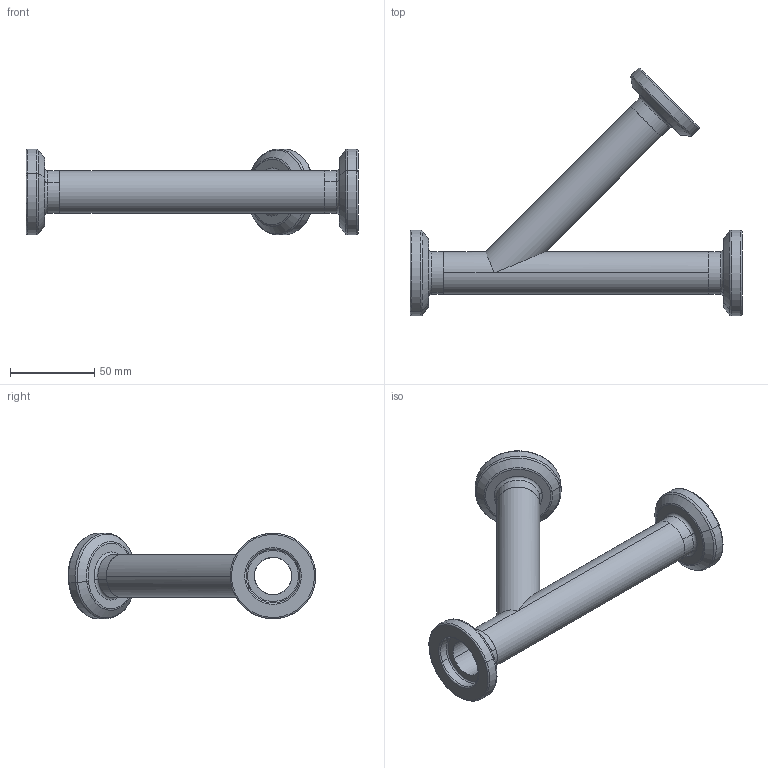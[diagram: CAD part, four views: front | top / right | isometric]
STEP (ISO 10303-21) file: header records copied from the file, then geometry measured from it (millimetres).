
FILE_DESCRIPTION (( 'STEP AP203' ), '1' );
FILE_NAME ('E28AI 1.0.STEP', '2021-10-27T14:25:05', ( '' ), ( '' ), 'SwSTEP 2.0', 'SolidWorks 2021', '' );
FILE_SCHEMA (( 'CONFIG_CONTROL_DESIGN' ));
Length unit declared in the file: inch
Products named in the file (3): E15WI1.0; E28AI 1.0; E28WA1.0
Assembly tree (4 placements, depth 2):
  E28AI 1.0
    E28WA1.0
    E15WI1.0  x3
Bounding box: 196.82 x 146.85 x 50.8 mm (x, y, z)
Volume: 77513.4 mm3; surface area: 59561.2 mm2
Topology: 4 solids, 4 shells, 91 faces, 188 edges, 110 vertices
Faces by surface type: torus 36, cylinder 34, plane 15, cone 6
Entity records: 1455 total; most frequent: DIRECTION 222, CARTESIAN_POINT 204, ORIENTED_EDGE 168, AXIS2_PLACEMENT_3D 100, EDGE_CURVE 84, CIRCLE 54, VERTEX_POINT 50, EDGE_LOOP 46
